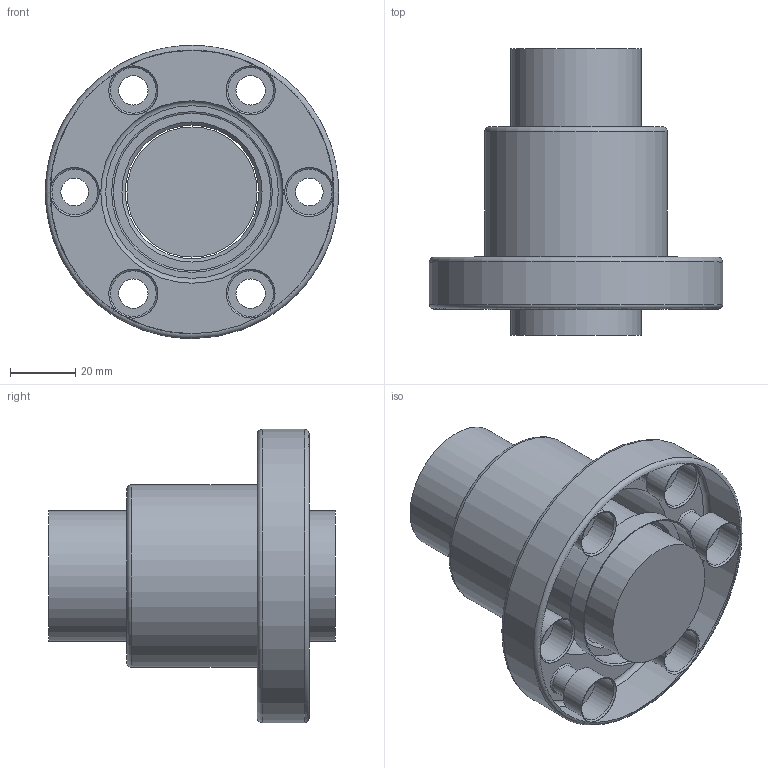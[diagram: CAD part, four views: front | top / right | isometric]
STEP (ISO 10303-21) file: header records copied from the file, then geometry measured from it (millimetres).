
FILE_DESCRIPTION(/* description */ (''),/* implementation_level */ '2;1');
FILE_NAME(/* name */ '4005T4N.prt.step',/* time_stamp */ '2008-12-05T09:36:49+08:00',/* author */ (''),/* organization */ (''),/* preprocessor_version */ 'ST-DEVELOPER v11',/* originating_system */ 'SIEMENS UGS NX 6.0',/* authorisation */ '');
FILE_SCHEMA (('AUTOMOTIVE_DESIGN { 1 0 10303 214 1 1 1 1 }'));
Length unit declared in the file: millimetre
Products named in the file (1): 4005T4N
Bounding box: 90 x 88 x 90 mm (x, y, z)
Volume: 218857.5 mm3; surface area: 44647.1 mm2
Topology: 2 solids, 2 shells, 50 faces, 115 edges, 72 vertices
Faces by surface type: cylinder 18, cone 14, plane 13, torus 5
Full cylindrical faces by diameter (mm): 8.5 x2, 9 x4, 14 x6, 39.95 x1, 41 x1, 48.3 x2, 56 x1, 90 x1
Entity records: 1138 total; most frequent: DIRECTION 222, CARTESIAN_POINT 165, ORIENTED_EDGE 120, AXIS2_PLACEMENT_3D 111, EDGE_LOOP 104, FACE_BOUND 102, EDGE_CURVE 60, CIRCLE 60
